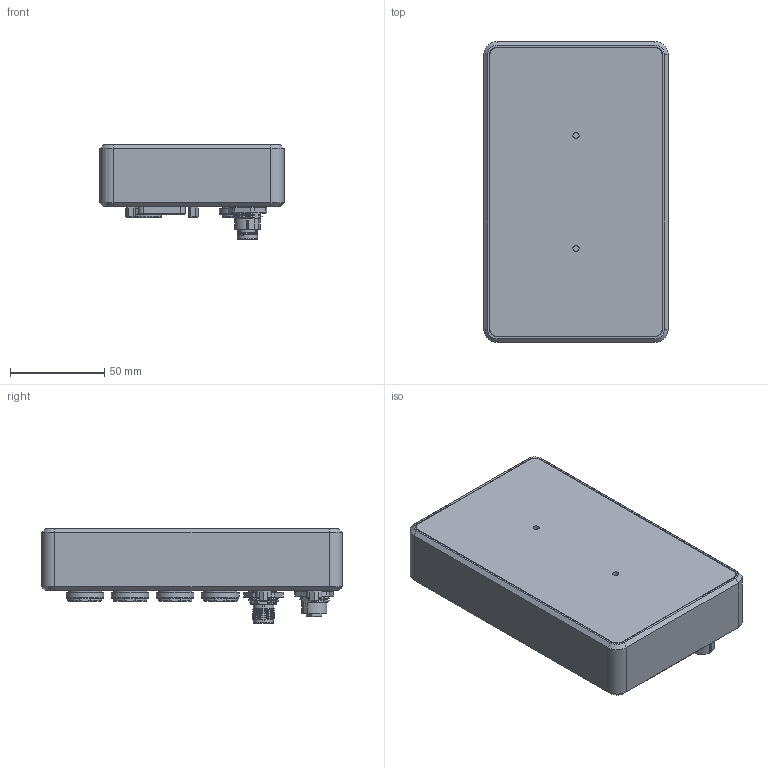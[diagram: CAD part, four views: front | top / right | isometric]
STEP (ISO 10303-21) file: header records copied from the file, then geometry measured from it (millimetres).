
FILE_DESCRIPTION(/* description */ (''),/* implementation_level */ '2;1');
FILE_NAME(/* name */ 'I:\Users\Alle\Inventor\_Projekte\254_B40.0 Irinos\Vereinfachte Modelle\B40.0 Tasterbox_vereinfacht.stp',/* time_stamp */ '2022-11-08T15:47:28+01:00',/* author */ ('PE'),/* organization */ (''),/* preprocessor_version */ 'ST-DEVELOPER v18.1',/* originating_system */ 'Autodesk Inventor 2021',/* authorisation */ '');
FILE_SCHEMA (('AUTOMOTIVE_DESIGN { 1 0 10303 214 3 1 1 }'));
Products named in the file (1): B40.0 Tasterbox_vereinfacht
Bounding box: 98 x 160 x 50.3 mm (x, y, z)
Volume: 469766.3 mm3; surface area: 97801.1 mm2
Topology: 1 solids, 32 shells, 4317 faces, 11713 edges, 7742 vertices
Faces by surface type: plane 2433, cylinder 975, bspline 544, cone 233, torus 119, sphere 13
Full cylindrical faces by diameter (mm): 0.217 x1, 1 x10, 1.2 x30, 1.3 x5, 1.36 x1, 1.5 x4, 1.6 x4, 2.1 x5, 2.459 x7, 2.5 x16, 3 x2, 3.242 x2, 3.4 x6, 8.9 x1, 10.75 x1, 11.13 x1, 11.7 x8, 12.2 x1, 13.85 x8, 14.6 x2, 15.1 x8, 15.188 x8, 15.4 x1, 15.6 x8, 16.1 x5, 18 x8, 18.1 x8, 20 x8
Entity records: 178975 total; most frequent: CARTESIAN_POINT 68386, ORIENTED_EDGE 23408, DIRECTION 20294, EDGE_CURVE 11704, VERTEX_POINT 7742, LINE 7034, VECTOR 7034, AXIS2_PLACEMENT_3D 6630
